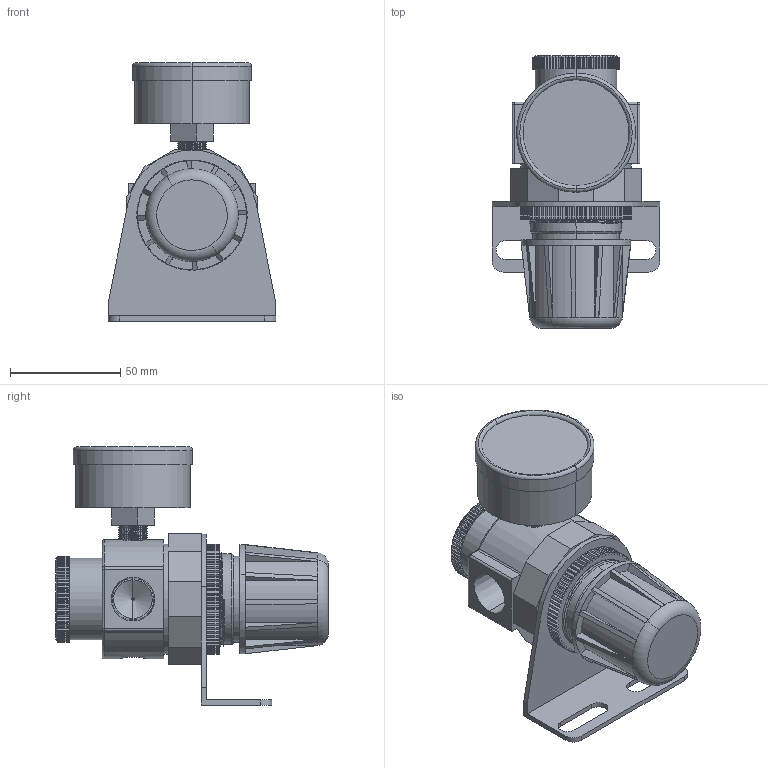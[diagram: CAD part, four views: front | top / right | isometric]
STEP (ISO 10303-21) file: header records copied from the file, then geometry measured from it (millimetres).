
FILE_DESCRIPTION (( 'STEP AP203' ), '1' );
FILE_NAME ('R010-04GB#.STEP', '2016-02-16T06:00:22', ( 'Toshiba' ), ( 'Toshiba' ), 'SwSTEP 2.0', 'SolidWorks 2014', '' );
FILE_SCHEMA (( 'CONFIG_CONTROL_DESIGN' ));
Length unit declared in the file: millimetre
Products named in the file (11): 50-P-AD=1-4PT.SLDPRT; R010-1(04); R010-4; KWSAR10Y57; 50-P-AD=1-4PT-1; R010-04GB#; R010-2; KWSAR10Y57-1; 50-P-AD=1-4PT-2; R010-3; KWR10X51
Assembly tree (10 placements, depth 3):
  R010-04GB#
    R010-1(04)
    R010-2
    R010-3
    R010-4
    KWSAR10Y57
      KWSAR10Y57-1
      KWR10X51
    50-P-AD=1-4PT.SLDPRT
      50-P-AD=1-4PT-1
      50-P-AD=1-4PT-2
Bounding box: 76 x 123.5 x 117 mm (x, y, z)
Volume: 275639.5 mm3; surface area: 66402.6 mm2
Topology: 8 solids, 8 shells, 715 faces, 1998 edges, 1301 vertices
Faces by surface type: plane 421, cylinder 253, cone 18, torus 15, sphere 4, bspline 4
Entity records: 26713 total; most frequent: CARTESIAN_POINT 7381, ORIENTED_EDGE 3980, DIRECTION 3672, EDGE_CURVE 1990, VERTEX_POINT 1301, LINE 1228, VECTOR 1228, AXIS2_PLACEMENT_3D 1222
